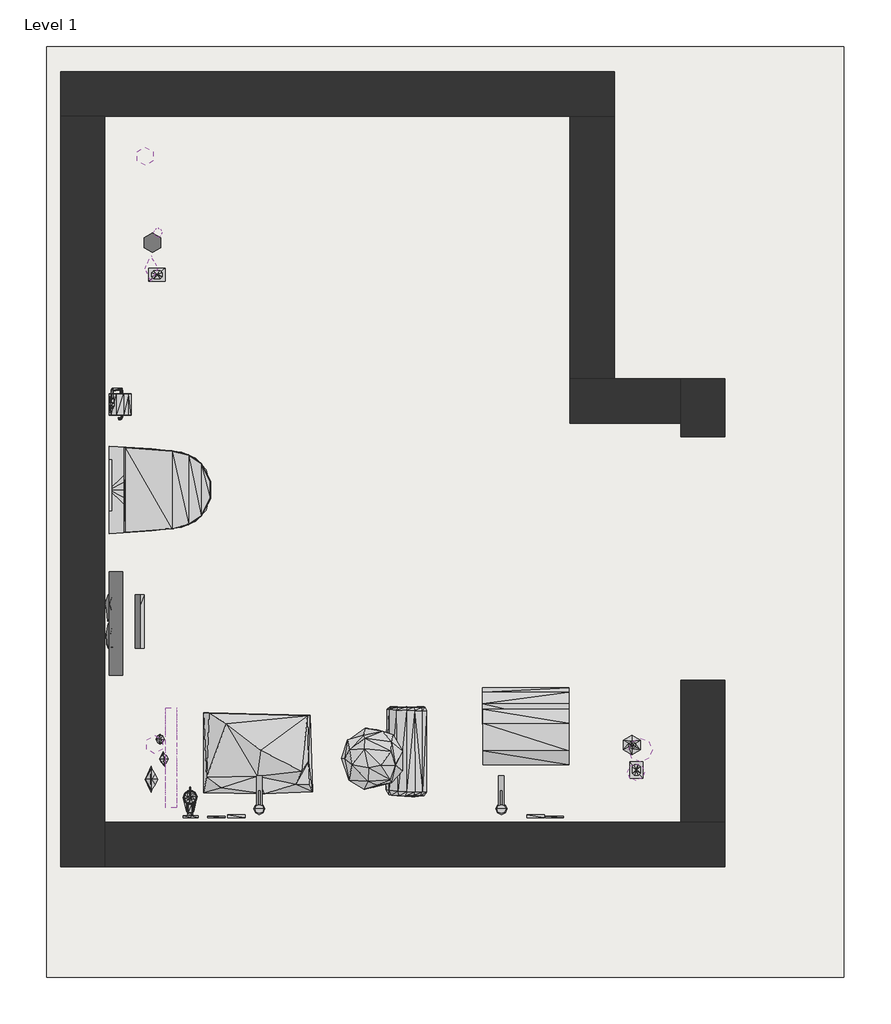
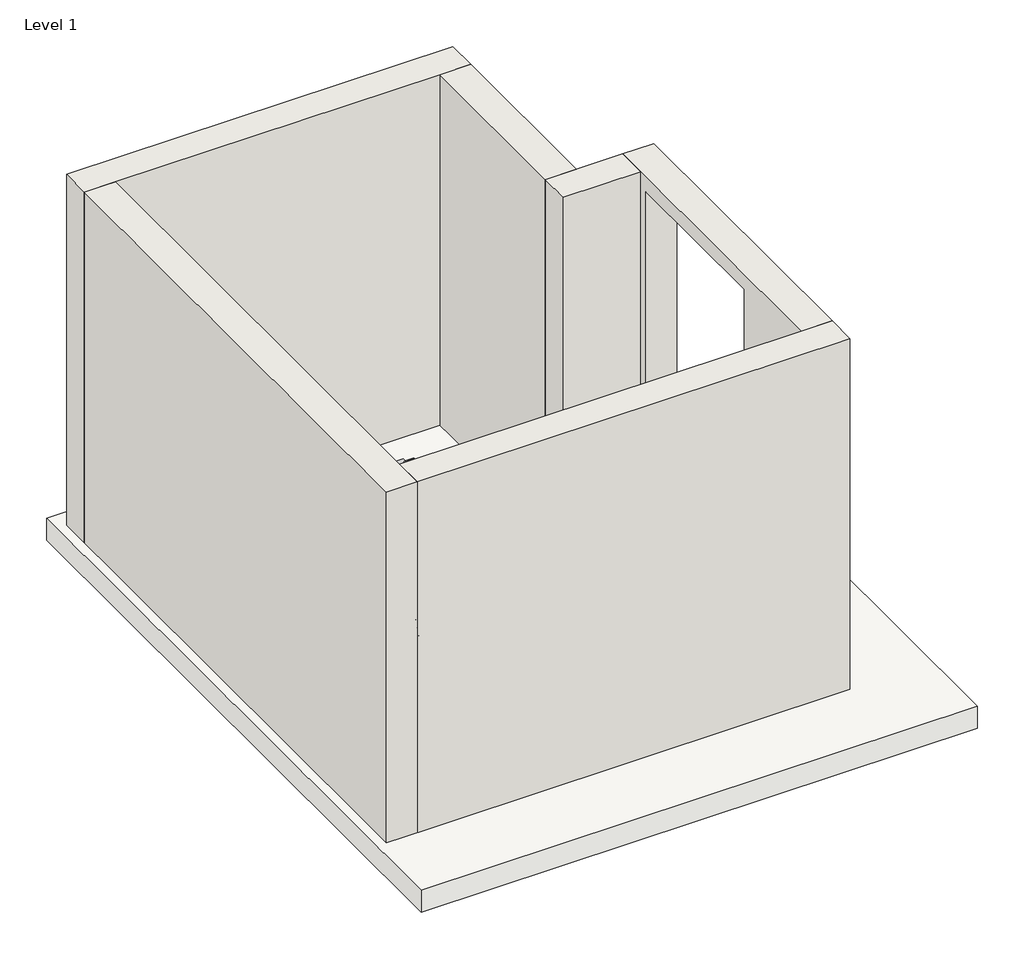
# One storey, incomplete: 26 geographic elements, 6 walls, 2 flow terminals, 1 proxy, 1 sanitary terminal, 1 slab.
"""IFC4 building model written with IfcOpenShell, lengths in millimetres."""

from ifc_helpers import new_model, si_unit, frame, origin, origin_with_axes, place, context, project, spatial, polyline, outline, extrude, faceted_brep, transform, mapped, element, save
from components import generic_models_c4c21ff8, tap_6_tap_6_e625ee54, enscape_assetdefinition_bath_towel_1_enscape_assetdefinition_b76da393, enscape_assetdefinition_creme_tube_02_1_enscape_099a7565, enscape_assetdefinition_creme_tube_03_1_enscape_79aa0b1a, enscape_assetdefinition_creme_tube_03_enscape_327f051b, enscape_assetdefinition_creme_tube_1_enscape_assetdefinition_85d8d02e, enscape_assetdefinition_creme_tube_enscape_assetdefinition_f89e7deb, enscape_assetdefinition_hanging_toilet_1_enscape_ed570b02, enscape_assetdefinition_heater_06_1_enscape_assetdefinition_1c5556bd, enscape_assetdefinition_interior_plant_84_enscape_4a8b0236, enscape_assetdefinition_light_switch_02_enscape_37d4c2cf, enscape_assetdefinition_power_socket_1_enscape_57b8c8f3, enscape_assetdefinition_soap_dispenser_05_1_enscape_c9e8c837, enscape_assetdefinition_soap_dispenser_1_enscape_4bf6a539, enscape_assetdefinition_soap_dispenser_enscape_fff8258c, enscape_assetdefinition_soap_tray_1_enscape_assetdefinition_739b70c8, enscape_assetdefinition_storage_glass_02_enscape_ec1b0890, enscape_assetdefinition_storage_glass_enscape_05d8ce10, enscape_assetdefinition_throw_02_enscape_assetdefinition_20508830, enscape_assetdefinition_throw_1_enscape_assetdefinition_fa2a812f, enscape_assetdefinition_toilet_paper_1_enscape_1f315c8c, enscape_assetdefinition_towel_1_enscape_assetdefinition_8e103dc8, sanitary_terminal_a1c712ac

model = new_model("IFC4")

# Units and contexts
model_context = context("Model", 3, world=origin())
ifc_project = project(units=[si_unit("LENGTHUNIT", "METRE", prefix="MILLI")], contexts=[model_context])

# Site, building, storey
site = spatial("IfcSite", under=ifc_project)
building = spatial("IfcBuilding", under=site)
storey = spatial("IfcBuildingStorey", under=building, Name="Level 1", Elevation=0.0)

# Proxy
placement = place(None, origin())
generic_models_shape = generic_models_c4c21ff8(model_context)
element("IfcBuildingElementProxy", 1, Name="ArcPro Statue : ArcPro Statue", ObjectType="ArcPro Statue : ArcPro Statue", at=placement, inside=storey, context=model_context, shape_type="MappedRepresentation", body=[
    mapped(generic_models_shape, transform((-8750.6659036, 4163.1650236, 1925.6014918), x_axis=(0.0, 1.0, 0.0), y_axis=(-1.0, 0.0, 0.0), z_axis=(0.0, 0.0, 1.0))),
])

# Flow terminals
tap_6_tap_6_shape = tap_6_tap_6_e625ee54(model_context)
element("IfcFlowTerminal", 2, ObjectType="Tap (6) : Tap (6)", at=placement, inside=storey, context=model_context, shape_type="MappedRepresentation", body=[
    mapped(tap_6_tap_6_shape, transform((-8353.1659036, 3998.1650236, 786.0), x_axis=(-1.0, 0.0, 0.0), y_axis=(0.0, -1.0, 0.0), z_axis=(0.0, 0.0, 1.0))),
])
element("IfcFlowTerminal", 3, ObjectType="Tap (6) : Tap (6)", at=placement, inside=storey, context=model_context, shape_type="MappedRepresentation", body=[
    mapped(tap_6_tap_6_shape, transform((-7260.6659036, 3998.1650236, 786.0), x_axis=(-1.0, 0.0, 0.0), y_axis=(0.0, -1.0, 0.0), z_axis=(0.0, 0.0, 1.0))),
])

# Geographic elements
enscape_assetdefinition_bath_towel_1_enscape_assetdefinition_shape = enscape_assetdefinition_bath_towel_1_enscape_assetdefinition_b76da393(model_context)
element("IfcGeographicElement", 4, ObjectType="Enscape AssetDefinition - Bath Towel 1 : Enscape AssetDefinition - Bath Towel 1", at=placement, inside=storey, context=model_context, shape_type="MappedRepresentation", body=[
    mapped(enscape_assetdefinition_bath_towel_1_enscape_assetdefinition_shape, transform((-8993.144582, 4743.1650236, 1461.1), x_axis=(0.0, -1.0, 0.0), y_axis=(1.0, 0.0, 0.0), z_axis=(0.0, 0.0, 1.0))),
])
enscape_assetdefinition_creme_tube_02_1_enscape_shape = enscape_assetdefinition_creme_tube_02_1_enscape_099a7565(model_context)
element("IfcGeographicElement", 5, ObjectType="Enscape AssetDefinition - Creme Tube 02 1 : Enscape AssetDefinition - Creme Tube 02 1", at=placement, inside=storey, context=model_context, shape_type="MappedRepresentation", body=[
    mapped(enscape_assetdefinition_creme_tube_02_1_enscape_shape, transform((-8784.0910568, 4223.1650236, 1010.0), x_axis=(0.09401792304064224, -0.9955705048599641, 0.0), y_axis=(0.9955705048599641, 0.09401792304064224, 0.0), z_axis=(0.0, 0.0, 1.0))),
])
enscape_assetdefinition_creme_tube_03_1_enscape_shape = enscape_assetdefinition_creme_tube_03_1_enscape_79aa0b1a(model_context)
element("IfcGeographicElement", 6, ObjectType="Enscape AssetDefinition - Creme Tube 03 1 : Enscape AssetDefinition - Creme Tube 03 1", at=placement, inside=storey, context=model_context, shape_type="MappedRepresentation", body=[
    mapped(enscape_assetdefinition_creme_tube_03_1_enscape_shape, transform((-8840.6659036, 4131.6670222, 1010.0), x_axis=(0.0, -1.0, 0.0), y_axis=(1.0, 0.0, 0.0), z_axis=(0.0, 0.0, 1.0))),
])
enscape_assetdefinition_creme_tube_03_enscape_shape = enscape_assetdefinition_creme_tube_03_enscape_327f051b(model_context)
element("IfcGeographicElement", 7, ObjectType="Enscape AssetDefinition - Creme Tube 03 : Enscape AssetDefinition - Creme Tube 03", at=placement, inside=storey, context=model_context, shape_type="MappedRepresentation", body=[
    mapped(enscape_assetdefinition_creme_tube_03_enscape_shape, transform((-8840.6659036, 6436.4670222, 1405.0), x_axis=(0.0, -1.0, 0.0), y_axis=(1.0, 0.0, 0.0), z_axis=(0.0, 0.0, 1.0))),
])
enscape_assetdefinition_creme_tube_1_enscape_assetdefinition_shape = enscape_assetdefinition_creme_tube_1_enscape_assetdefinition_85d8d02e(model_context)
element("IfcGeographicElement", 8, ObjectType="Enscape AssetDefinition - Creme Tube 1 : Enscape AssetDefinition - Creme Tube 1", at=placement, inside=storey, context=model_context, shape_type="MappedRepresentation", body=[
    mapped(enscape_assetdefinition_creme_tube_1_enscape_assetdefinition_shape, transform((-8800.6949278, 4313.1650236, 1010.0), x_axis=(0.0, -1.0, 0.0), y_axis=(1.0, 0.0, 0.0), z_axis=(0.0, 0.0, 1.0))),
])
enscape_assetdefinition_creme_tube_enscape_assetdefinition_shape = enscape_assetdefinition_creme_tube_enscape_assetdefinition_f89e7deb(model_context)
element("IfcGeographicElement", 9, ObjectType="Enscape AssetDefinition - Creme Tube : Enscape AssetDefinition - Creme Tube", at=placement, inside=storey, context=model_context, shape_type="MappedRepresentation", body=[
    mapped(enscape_assetdefinition_creme_tube_enscape_assetdefinition_shape, transform((-8810.6659036, 6597.9650236, 1405.0), x_axis=(0.0, -1.0, 0.0), y_axis=(1.0, 0.0, 0.0), z_axis=(0.0, 0.0, 1.0))),
])
enscape_assetdefinition_hanging_toilet_1_enscape_shape = enscape_assetdefinition_hanging_toilet_1_enscape_ed570b02(model_context)
element("IfcGeographicElement", 10, ObjectType="Enscape AssetDefinition - Hanging Toilet 1 : Enscape AssetDefinition - Hanging Toilet 1", at=placement, inside=storey, context=model_context, shape_type="MappedRepresentation", body=[
    mapped(enscape_assetdefinition_hanging_toilet_1_enscape_shape, transform((-9030.6659036, 5438.1650236, 200.0), x_axis=(0.0, 1.0, 0.0), y_axis=(-1.0, 0.0, 0.0), z_axis=(0.0, 0.0, 1.0))),
])
enscape_assetdefinition_heater_06_1_enscape_assetdefinition_shape = enscape_assetdefinition_heater_06_1_enscape_assetdefinition_1c5556bd(model_context)
element("IfcGeographicElement", 11, ObjectType="Enscape AssetDefinition - Heater 06 1 : Enscape AssetDefinition - Heater 06 1", at=placement, inside=storey, context=model_context, shape_type="MappedRepresentation", body=[
    mapped(enscape_assetdefinition_heater_06_1_enscape_assetdefinition_shape, transform((-9030.6659036, 4848.9893976, 670.0), x_axis=(0.0, 1.0, 0.0), y_axis=(-1.0, 0.0, 0.0), z_axis=(0.0, 0.0, 1.0))),
])
enscape_assetdefinition_interior_plant_84_enscape_shape = enscape_assetdefinition_interior_plant_84_enscape_4a8b0236(model_context)
element("IfcGeographicElement", 12, ObjectType="Enscape AssetDefinition - Interior Plant 84 : Enscape AssetDefinition - Interior Plant 84", at=placement, inside=storey, context=model_context, shape_type="MappedRepresentation", body=[
    mapped(enscape_assetdefinition_interior_plant_84_enscape_shape, transform((-7840.6659036, 4223.1650236, 786.0), x_axis=(1.0, 0.0, 0.0), y_axis=(0.0, 1.0, 0.0), z_axis=(0.0, 0.0, 1.0))),
])
enscape_assetdefinition_light_switch_02_enscape_shape = enscape_assetdefinition_light_switch_02_enscape_37d4c2cf(model_context)
element("IfcGeographicElement", 13, ObjectType="Enscape AssetDefinition - Light Switch 02 : Enscape AssetDefinition - Light Switch 02", at=placement, inside=storey, context=model_context, shape_type="MappedRepresentation", body=[
    mapped(enscape_assetdefinition_light_switch_02_enscape_shape, transform((-8456.8550503, 3958.1650236, 1000.0), x_axis=(-1.0, 0.0, 0.0), y_axis=(0.0, -1.0, 0.0), z_axis=(0.0, 0.0, 1.0))),
])
element("IfcGeographicElement", 14, ObjectType="Enscape AssetDefinition - Light Switch 02 : Enscape AssetDefinition - Light Switch 02", at=placement, inside=storey, context=model_context, shape_type="MappedRepresentation", body=[
    mapped(enscape_assetdefinition_light_switch_02_enscape_shape, transform((-7105.6659036, 3958.1650236, 1000.0), x_axis=(-1.0, 0.0, 0.0), y_axis=(0.0, -1.0, 0.0), z_axis=(0.0, 0.0, 1.0))),
])
enscape_assetdefinition_power_socket_1_enscape_shape = enscape_assetdefinition_power_socket_1_enscape_57b8c8f3(model_context)
element("IfcGeographicElement", 15, ObjectType="Enscape AssetDefinition - Power Socket 1 : Enscape AssetDefinition - Power Socket 1", at=placement, inside=storey, context=model_context, shape_type="MappedRepresentation", body=[
    mapped(enscape_assetdefinition_power_socket_1_enscape_shape, transform((-7020.6659036, 3958.1650236, 1000.0), x_axis=(-1.0, 0.0, 0.0), y_axis=(0.0, -1.0, 0.0), z_axis=(0.0, 0.0, 1.0))),
])
element("IfcGeographicElement", 16, ObjectType="Enscape AssetDefinition - Power Socket 1 : Enscape AssetDefinition - Power Socket 1", at=placement, inside=storey, context=model_context, shape_type="MappedRepresentation", body=[
    mapped(enscape_assetdefinition_power_socket_1_enscape_shape, transform((-8546.8550503, 3958.1650236, 1000.0), x_axis=(-1.0, 0.0, 0.0), y_axis=(0.0, -1.0, 0.0), z_axis=(0.0, 0.0, 1.0))),
])
enscape_assetdefinition_soap_dispenser_05_1_enscape_shape = enscape_assetdefinition_soap_dispenser_05_1_enscape_c9e8c837(model_context)
element("IfcGeographicElement", 17, ObjectType="Enscape AssetDefinition - Soap Dispenser 05 1 : Enscape AssetDefinition - Soap Dispenser 05 1", at=placement, inside=storey, context=model_context, shape_type="MappedRepresentation", body=[
    mapped(enscape_assetdefinition_soap_dispenser_05_1_enscape_shape, transform((-8665.6659036, 3958.1650236, 1000.0), x_axis=(-1.0, 0.0, 0.0), y_axis=(0.0, -1.0, 0.0), z_axis=(0.0, 0.0, 1.0))),
])
enscape_assetdefinition_soap_dispenser_1_enscape_shape = enscape_assetdefinition_soap_dispenser_1_enscape_4bf6a539(model_context)
element("IfcGeographicElement", 18, ObjectType="Enscape AssetDefinition - Soap Dispenser 1 : Enscape AssetDefinition - Soap Dispenser 1", at=placement, inside=storey, context=model_context, shape_type="MappedRepresentation", body=[
    mapped(enscape_assetdefinition_soap_dispenser_1_enscape_shape, transform((-6670.6659036, 4286.1771839, 1010.0), x_axis=(1.0, 0.0, 0.0), y_axis=(0.0, 1.0, 0.0), z_axis=(0.0, 0.0, 1.0))),
])
element("IfcGeographicElement", 19, ObjectType="Enscape AssetDefinition - Soap Dispenser 1 : Enscape AssetDefinition - Soap Dispenser 1", at=placement, inside=storey, context=model_context, shape_type="MappedRepresentation", body=[
    mapped(enscape_assetdefinition_soap_dispenser_1_enscape_shape, transform((-8835.6659036, 6553.1650236, 1110.0), x_axis=(1.0, 0.0, 0.0), y_axis=(0.0, 1.0, 0.0), z_axis=(0.0, 0.0, 1.0))),
])
enscape_assetdefinition_soap_dispenser_enscape_shape = enscape_assetdefinition_soap_dispenser_enscape_fff8258c(model_context)
element("IfcGeographicElement", 20, ObjectType="Enscape AssetDefinition - Soap Dispenser : Enscape AssetDefinition - Soap Dispenser", at=placement, inside=storey, context=model_context, shape_type="MappedRepresentation", body=[
    mapped(enscape_assetdefinition_soap_dispenser_enscape_shape, transform((-8825.400905, 4288.7860224, 1395.0), x_axis=(1.0, 0.0, 0.0), y_axis=(0.0, 1.0, 0.0), z_axis=(0.0, 0.0, 1.0))),
])
element("IfcGeographicElement", 21, ObjectType="Enscape AssetDefinition - Soap Dispenser : Enscape AssetDefinition - Soap Dispenser", at=placement, inside=storey, context=model_context, shape_type="MappedRepresentation", body=[
    mapped(enscape_assetdefinition_soap_dispenser_enscape_shape, transform((-8867.7753751, 6943.1650236, 1405.0), x_axis=(1.0, 0.0, 0.0), y_axis=(0.0, 1.0, 0.0), z_axis=(0.0, 0.0, 1.0))),
])
enscape_assetdefinition_soap_tray_1_enscape_assetdefinition_shape = enscape_assetdefinition_soap_tray_1_enscape_assetdefinition_739b70c8(model_context)
element("IfcGeographicElement", 22, ObjectType="Enscape AssetDefinition - Soap Tray 1 : Enscape AssetDefinition - Soap Tray 1", at=placement, inside=storey, context=model_context, shape_type="MappedRepresentation", body=[
    mapped(enscape_assetdefinition_soap_tray_1_enscape_assetdefinition_shape, transform((-8815.6659036, 6408.1650236, 1110.0), x_axis=(1.0, 0.0, 0.0), y_axis=(0.0, 1.0, 0.0), z_axis=(0.0, 0.0, 1.0))),
])
element("IfcGeographicElement", 23, ObjectType="Enscape AssetDefinition - Soap Tray 2 : Enscape AssetDefinition - Soap Tray 2", at=placement, inside=storey, context=model_context, shape_type="MappedRepresentation", body=[
    mapped(enscape_assetdefinition_soap_tray_1_enscape_assetdefinition_shape, transform((-6651.1998369, 4173.0723998, 1010.0), x_axis=(0.0, 1.0, 0.0), y_axis=(-1.0, 0.0, 0.0), z_axis=(0.0, 0.0, 1.0))),
])
enscape_assetdefinition_storage_glass_02_enscape_shape = enscape_assetdefinition_storage_glass_02_enscape_ec1b0890(model_context)
element("IfcGeographicElement", 24, ObjectType="Enscape AssetDefinition - Storage Glass 02 : Enscape AssetDefinition - Storage Glass 02", at=placement, inside=storey, context=model_context, shape_type="MappedRepresentation", body=[
    mapped(enscape_assetdefinition_storage_glass_02_enscape_shape, transform((-6652.5950536, 4164.1969784, 1405.0), x_axis=(1.0, 0.0, 0.0), y_axis=(0.0, 1.0, 0.0), z_axis=(0.0, 0.0, 1.0))),
])
enscape_assetdefinition_storage_glass_enscape_shape = enscape_assetdefinition_storage_glass_enscape_05d8ce10(model_context)
element("IfcGeographicElement", 25, ObjectType="Enscape AssetDefinition - Storage Glass : Enscape AssetDefinition - Storage Glass", at=placement, inside=storey, context=model_context, shape_type="MappedRepresentation", body=[
    mapped(enscape_assetdefinition_storage_glass_enscape_shape, transform((-6632.5950536, 4264.1969784, 1405.0), x_axis=(1.0, 0.0, 0.0), y_axis=(0.0, 1.0, 0.0), z_axis=(0.0, 0.0, 1.0))),
])
enscape_assetdefinition_throw_02_enscape_assetdefinition_shape = enscape_assetdefinition_throw_02_enscape_assetdefinition_20508830(model_context)
element("IfcGeographicElement", 26, ObjectType="Enscape AssetDefinition - Throw 02 : Enscape AssetDefinition - Throw 02", at=placement, inside=storey, context=model_context, shape_type="MappedRepresentation", body=[
    mapped(enscape_assetdefinition_throw_02_enscape_assetdefinition_shape, transform((-7150.4659036, 4363.1650236, 352.5), x_axis=(-1.0, 0.0, 0.0), y_axis=(0.0, -1.0, 0.0), z_axis=(0.0, 0.0, 1.0))),
])
enscape_assetdefinition_throw_1_enscape_assetdefinition_shape = enscape_assetdefinition_throw_1_enscape_assetdefinition_fa2a812f(model_context)
element("IfcGeographicElement", 27, ObjectType="Enscape AssetDefinition - Throw 1 : Enscape AssetDefinition - Throw 1", at=placement, inside=storey, context=model_context, shape_type="MappedRepresentation", body=[
    mapped(enscape_assetdefinition_throw_1_enscape_assetdefinition_shape, transform((-8350.6659036, 4258.3860229, 352.5), x_axis=(0.0, -1.0, 0.0), y_axis=(1.0, 0.0, 0.0), z_axis=(0.0, 0.0, 1.0))),
])
enscape_assetdefinition_toilet_paper_1_enscape_shape = enscape_assetdefinition_toilet_paper_1_enscape_1f315c8c(model_context)
element("IfcGeographicElement", 28, ObjectType="Enscape AssetDefinition - Toilet Paper 1 : Enscape AssetDefinition - Toilet Paper 1", at=placement, inside=storey, context=model_context, shape_type="MappedRepresentation", body=[
    mapped(enscape_assetdefinition_toilet_paper_1_enscape_shape, transform((-9030.6659036, 5823.1650236, 786.0), x_axis=(0.0, 1.0, 0.0), y_axis=(-1.0, 0.0, 0.0), z_axis=(0.0, 0.0, 1.0))),
])
enscape_assetdefinition_towel_1_enscape_assetdefinition_shape = enscape_assetdefinition_towel_1_enscape_assetdefinition_8e103dc8(model_context)
element("IfcGeographicElement", 29, ObjectType="Enscape AssetDefinition - Towel 1 : Enscape AssetDefinition - Towel 1", at=placement, inside=storey, context=model_context, shape_type="MappedRepresentation", body=[
    mapped(enscape_assetdefinition_towel_1_enscape_assetdefinition_shape, transform((-7683.8204085, 4258.3860229, 352.5), x_axis=(0.0, 1.0, 0.0), y_axis=(-1.0, 0.0, 0.0), z_axis=(0.0, 0.0, 1.0))),
])

# Sanitary terminal
sanitary_terminal_shape = sanitary_terminal_a1c712ac(model_context)
element("IfcSanitaryTerminal", 30, ObjectType="IS_Karisma_Multiproduct_BIM_GB_E4463_E4465 : E4463AA-Karisma flush plate dual flush, chrome, unbranded", at=placement, inside=storey, context=model_context, shape_type="MappedRepresentation", body=[
    mapped(sanitary_terminal_shape, transform((-9030.6659036, 5458.1650236, 786.0), x_axis=(0.0, 1.0, 0.0), y_axis=(0.0, 0.0, 1.0), z_axis=(1.0, 0.0, 0.0))),
])

# Slab
element("IfcSlab", 31, ObjectType="Generic 150mm", at=placement, inside=storey, context=model_context, shape_type="SweptSolid", body=[
    extrude(outline(polyline([(-5713.7646331, 7438.1650236), (-5713.7646331, 3238.1650236), (-9313.7646331, 3238.1650236), (-9313.7646331, 7438.1650236), (-5713.7646331, 7438.1650236)])), frame((0.0, 0.0, -150.0), z_axis=(0.0, 0.0, 1.0), x_axis=(1.0, 0.0, 0.0)), (0.0, 0.0, 1.0), 150.0),
])

# Walls
element("IfcWall", 32, ObjectType="Generic - 200mm", at=placement, inside=storey, context=model_context, shape_type="Brep", body=[
    faceted_brep([(-9250.6659036, 7123.1650236, 0.0), (-9050.6659036, 7123.1650236, 0.0), (-6950.6659036, 7123.1650236, 0.0), (-6750.6659036, 7123.1650236, 0.0), (-6750.6659036, 7123.1650236, 2400.0), (-6950.6659036, 7123.1650236, 2400.0), (-9050.6659036, 7123.1650236, 2400.0), (-9250.6659036, 7123.1650236, 2400.0), (-9250.6659036, 7323.1650236, 0.0), (-9250.6659036, 7323.1650236, 2400.0), (-6750.6659036, 7323.1650236, 2400.0), (-6750.6659036, 7323.1650236, 0.0)], [[[0, 1, 2, 3, 4, 5, 6, 7]], [[8, 9, 10, 11]], [[3, 2, 1, 0, 8, 11]], [[0, 7, 9, 8]], [[4, 3, 11, 10]], [[7, 6, 5, 4, 10, 9]]]),
])
element("IfcWall", 33, ObjectType="Generic - 200mm", at=placement, inside=storey, context=model_context, shape_type="Brep", body=[
    faceted_brep([(-9050.6659036, 3738.1650236, 0.0), (-9050.6659036, 3938.1650236, 0.0), (-9050.6659036, 7123.1650236, 0.0), (-9050.6659036, 7123.1650236, 2400.0), (-9050.6659036, 3938.1650236, 2400.0), (-9050.6659036, 3738.1650236, 2400.0), (-9250.6659036, 3738.1650236, 0.0), (-9250.6659036, 3738.1650236, 2400.0), (-9250.6659036, 7123.1650236, 2400.0), (-9250.6659036, 7123.1650236, 0.0)], [[[0, 1, 2, 3, 4, 5]], [[6, 7, 8, 9]], [[2, 1, 0, 6, 9]], [[0, 5, 7, 6]], [[3, 2, 9, 8]], [[5, 4, 3, 8, 7]]]),
])
element("IfcWall", 34, ObjectType="Generic - 200mm", at=placement, inside=storey, context=model_context, shape_type="Brep", body=[
    faceted_brep([(-6250.6659036, 3938.1650236, 0.0), (-6450.6659036, 3938.1650236, 0.0), (-9050.6659036, 3938.1650236, 0.0), (-9050.6659036, 3938.1650236, 2400.0), (-6450.6659036, 3938.1650236, 2400.0), (-6250.6659036, 3938.1650236, 2400.0), (-6250.6659036, 3738.1650236, 0.0), (-6250.6659036, 3738.1650236, 2400.0), (-9050.6659036, 3738.1650236, 2400.0), (-9050.6659036, 3738.1650236, 0.0)], [[[0, 1, 2, 3, 4, 5]], [[6, 7, 8, 9]], [[2, 1, 0, 6, 9]], [[0, 5, 7, 6]], [[3, 2, 9, 8]], [[5, 4, 3, 8, 7]]]),
])
element("IfcWall", 35, ObjectType="Generic - 200mm", at=placement, inside=storey, context=model_context, shape_type="Brep", body=[
    faceted_brep([(-6450.6659036, 3938.1650236, 0.0), (-6450.6659036, 3938.1650236, 2400.0), (-6450.6659036, 5738.1650236, 2400.0), (-6450.6659036, 5938.1650236, 2400.0), (-6450.6659036, 5938.1650236, 0.0), (-6450.6659036, 5738.1650236, 0.0), (-6450.6659036, 5678.1650236, 0.0), (-6450.6659036, 5678.1650236, 2300.0), (-6450.6659036, 4578.1650236, 2300.0), (-6450.6659036, 4578.1650236, 0.0), (-6250.6659036, 3938.1650236, 2400.0), (-6250.6659036, 3938.1650236, 0.0), (-6250.6659036, 4578.1650236, 0.0), (-6250.6659036, 4578.1650236, 2300.0), (-6250.6659036, 5678.1650236, 2300.0), (-6250.6659036, 5678.1650236, 0.0), (-6250.6659036, 5938.1650236, 0.0), (-6250.6659036, 5938.1650236, 2400.0)], [[[0, 1, 2, 3, 4, 5, 6, 7, 8, 9]], [[10, 11, 12, 13, 14, 15, 16, 17]], [[11, 0, 9, 12]], [[4, 16, 15, 6, 5]], [[1, 0, 11, 10]], [[4, 3, 17, 16]], [[3, 2, 1, 10, 17]], [[14, 7, 6, 15]], [[7, 14, 13, 8]], [[8, 13, 12, 9]]]),
])
element("IfcWall", 36, ObjectType="Generic - 200mm", at=placement, inside=storey, context=model_context, shape_type="Brep", body=[
    faceted_brep([(-6450.6659036, 5938.1650236, 0.0), (-6750.6659036, 5938.1650236, 0.0), (-6950.6659036, 5938.1650236, 0.0), (-6950.6659036, 5938.1650236, 2400.0), (-6750.6659036, 5938.1650236, 2400.0), (-6450.6659036, 5938.1650236, 2400.0), (-6450.6659036, 5738.1650236, 0.0), (-6450.6659036, 5738.1650236, 2400.0), (-6950.6659036, 5738.1650236, 2400.0), (-6950.6659036, 5738.1650236, 0.0)], [[[0, 1, 2, 3, 4, 5]], [[6, 7, 8, 9]], [[2, 1, 0, 6, 9]], [[3, 2, 9, 8]], [[0, 5, 7, 6]], [[5, 4, 3, 8, 7]]]),
])
element("IfcWall", 37, ObjectType="Generic - 200mm", at=placement, inside=storey, context=model_context, shape_type="SweptSolid", body=[
    extrude(outline(polyline([(-6750.6659036, 7123.1650236), (-6750.6659036, 5938.1650236), (-6950.6659036, 5938.1650236), (-6950.6659036, 7123.1650236), (-6750.6659036, 7123.1650236)])), origin_with_axes(), (0.0, 0.0, 1.0), 2400.0),
])

save(model, "model.ifc")
